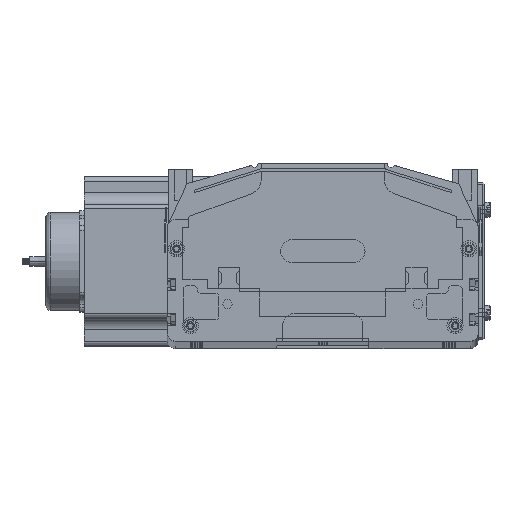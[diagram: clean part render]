
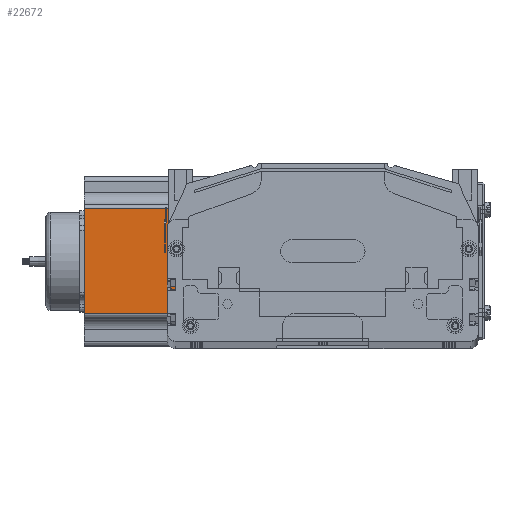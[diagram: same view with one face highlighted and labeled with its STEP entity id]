
A CAD part, top view. The second image highlights one B-rep face of the part: STEP entity #22672.
In plain terms, the highlighted planar face has unit normal (0, 0, 1) as drawn and (0, -1, 0) by its records, which use the part's own axes.
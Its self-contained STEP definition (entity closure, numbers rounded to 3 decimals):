
#22433 = EDGE_CURVE ( 'NONE', #23050, #22483, #32439, .T. ) ;
#22483 = VERTEX_POINT ( 'NONE', #32656 ) ;
#22490 = EDGE_CURVE ( 'NONE', #22483, #22641, #32746, .T. ) ;
#22641 = VERTEX_POINT ( 'NONE', #32556 ) ;
#22647 = ORIENTED_EDGE ( 'NONE', *, *, #22490, .T. ) ;
#22660 = EDGE_LOOP ( 'NONE', ( #22647, #22674, #22790, #22959 ) ) ;
#22667 = EDGE_CURVE ( 'NONE', #22641, #22689, #32383, .T. ) ;
#22672 = ADVANCED_FACE ( 'NONE', ( #32391 ), #32677, .F. ) ;
#22674 = ORIENTED_EDGE ( 'NONE', *, *, #22667, .T. ) ;
#22689 = VERTEX_POINT ( 'NONE', #32927 ) ;
#22790 = ORIENTED_EDGE ( 'NONE', *, *, #22922, .F. ) ;
#22922 = EDGE_CURVE ( 'NONE', #23050, #22689, #33132, .T. ) ;
#22959 = ORIENTED_EDGE ( 'NONE', *, *, #22433, .T. ) ;
#23050 = VERTEX_POINT ( 'NONE', #33148 ) ;
#32383 = LINE ( 'NONE', #32437, #32388 ) ;
#32384 = VECTOR ( 'NONE', #32386, 1000. ) ;
#32386 = DIRECTION ( 'NONE',  ( 0., 0., -1. ) ) ;
#32387 = CARTESIAN_POINT ( 'NONE',  ( 21.048, 0., 160.5 ) ) ;
#32388 = VECTOR ( 'NONE', #32436, 1000. ) ;
#32391 = FACE_OUTER_BOUND ( 'NONE', #22660, .T. ) ;
#32436 = DIRECTION ( 'NONE',  ( 0., 0., 1. ) ) ;
#32437 = CARTESIAN_POINT ( 'NONE',  ( 88.952, 0., 160.5 ) ) ;
#32439 = LINE ( 'NONE', #32387, #32384 ) ;
#32550 = DIRECTION ( 'NONE',  ( 0., 1., 0. ) ) ;
#32556 = CARTESIAN_POINT ( 'NONE',  ( 88.952, 0., 0. ) ) ;
#32656 = CARTESIAN_POINT ( 'NONE',  ( 21.048, 0., 0. ) ) ;
#32670 = DIRECTION ( 'NONE',  ( 0., 0., 1. ) ) ;
#32671 = AXIS2_PLACEMENT_3D ( 'NONE', #32695, #32550, #32670 ) ;
#32677 = PLANE ( 'NONE',  #32671 ) ;
#32695 = CARTESIAN_POINT ( 'NONE',  ( 0., 0., 160.5 ) ) ;
#32743 = DIRECTION ( 'NONE',  ( 1., 0., 0. ) ) ;
#32744 = VECTOR ( 'NONE', #32743, 1000. ) ;
#32745 = CARTESIAN_POINT ( 'NONE',  ( 0., 0., 0. ) ) ;
#32746 = LINE ( 'NONE', #32745, #32744 ) ;
#32927 = CARTESIAN_POINT ( 'NONE',  ( 88.952, 0., 160.5 ) ) ;
#33131 = CARTESIAN_POINT ( 'NONE',  ( 0., 0., 160.5 ) ) ;
#33132 = LINE ( 'NONE', #33131, #33201 ) ;
#33148 = CARTESIAN_POINT ( 'NONE',  ( 21.048, 0., 160.5 ) ) ;
#33200 = DIRECTION ( 'NONE',  ( 1., 0., 0. ) ) ;
#33201 = VECTOR ( 'NONE', #33200, 1000. ) ;
